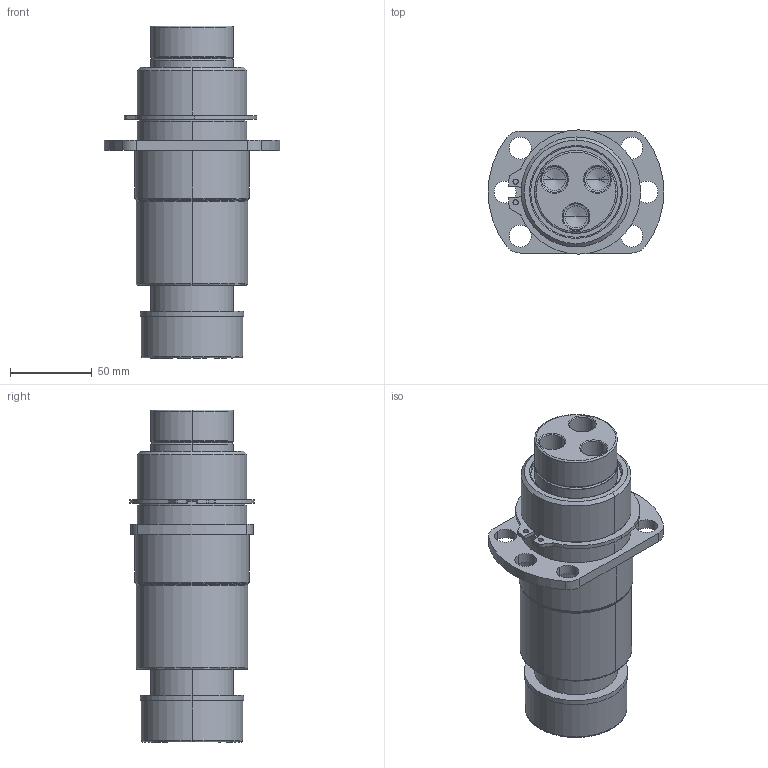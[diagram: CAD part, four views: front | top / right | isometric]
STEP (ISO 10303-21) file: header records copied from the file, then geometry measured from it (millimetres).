
FILE_DESCRIPTION (( 'STEP AP214' ), '1' );
FILE_NAME ('GK205-N5-2-TB-E-XXX.STEP', '2020-09-22T14:01:55', ( '' ), ( '' ), 'SwSTEP 2.0', 'SolidWorks 2017', '' );
FILE_SCHEMA (( 'AUTOMOTIVE_DESIGN' ));
Length unit declared in the file: inch
Products named in the file (7): GK205-E-XXX-GuidePin; GK2.00-N5-2-TB-Base; GK205-DampeningWasher; GK205-N5-2-TB-E-XXX; RetainingRing
Assembly tree (6 placements, depth 3):
  GK205-N5-2-TB-E-XXX
    GK2.00-N5-2-TB-Base
      GK2.00-N5-2-TB-Base
      RetainingRing
    GK205-E-XXX-GuidePin
      GK205-E-XXX-GuidePin
      GK205-DampeningWasher
Bounding box: 107.7 x 76.06 x 203.2 mm (x, y, z)
Volume: 652567.2 mm3; surface area: 113083.4 mm2
Topology: 4 solids, 4 shells, 136 faces, 328 edges, 203 vertices
Faces by surface type: cylinder 68, cone 24, bspline 22, plane 22
Entity records: 4922 total; most frequent: CARTESIAN_POINT 1252, DIRECTION 758, ORIENTED_EDGE 644, EDGE_CURVE 322, AXIS2_PLACEMENT_3D 321, VERTEX_POINT 203, CIRCLE 196, EDGE_LOOP 165
